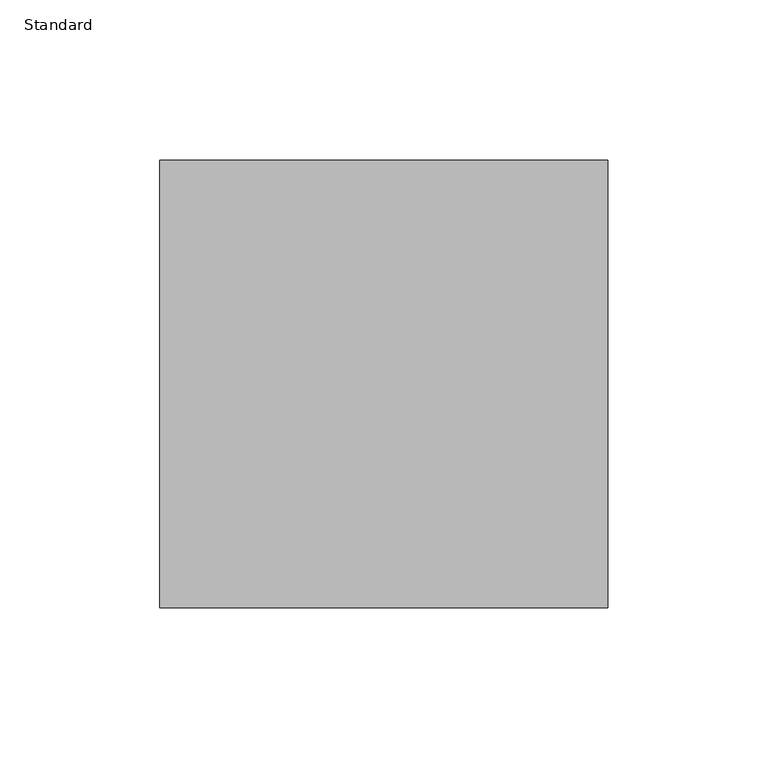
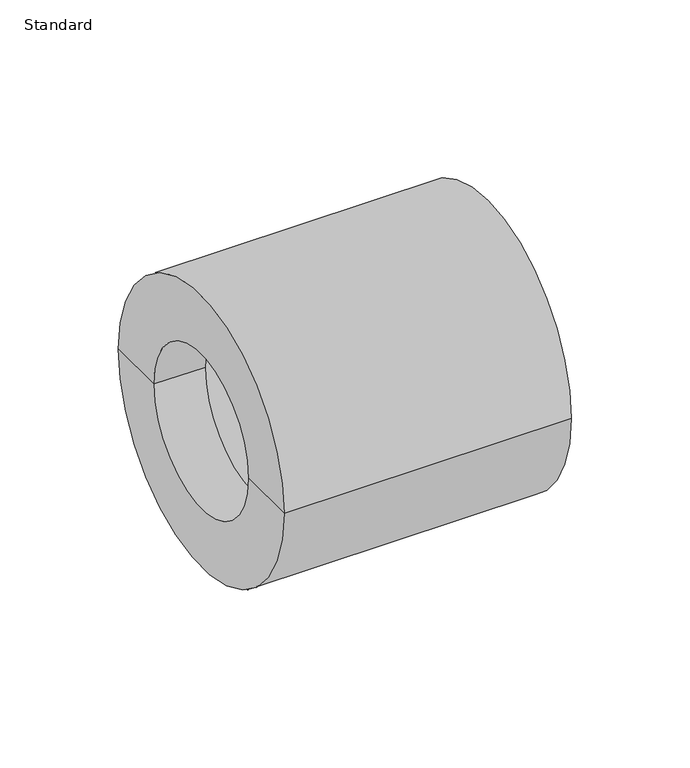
"""IFC4 building model written with IfcOpenShell, lengths in millimetres: pipe fitting geometry, Durapipe_PipeFitting_PVC_ReducingBush : Standard."""

from ifc_helpers import new_model, si_unit, frame, origin, place, context, project, spatial, polyline, circle_curve, source, transform, mapped, element, save
from ifc_brep_helpers import plane_surface, cylinder_surface, revolved_surface, advanced_brep


def standard_b5006dd4(model_context):
    return source(origin(), model_context, "Body", "AdvancedBrep", [
        advanced_brep(
        [(-25.0, -40.0, 0.0), (-25.0, 40.0, 0.0), (-25.0, 70.0, 0.0), (-25.0, -70.0, 0.0), (0.0, -40.0, 0.0), (0.0, 40.0, 0.0), (0.0, -45.0, 0.0), (0.0, 45.0, 0.0), (115.0, -45.0, 0.0), (115.0, 45.0, 0.0), (115.0, -70.0, 0.0), (115.0, 70.0, 0.0)],
        [
            (0, 1, circle_curve(frame((-25.0, 0.0, 0.0), z_axis=(1.0, 0.0, 0.0), x_axis=(0.0, 1.0, 0.0)), 40.0)),
            (1, 2),
            (2, 3, circle_curve(frame((-25.0, 0.0, 0.0), z_axis=(-1.0, 0.0, 0.0), x_axis=(0.0, 1.0, 0.0)), 70.0)),
            (3, 0),
            (1, 0, circle_curve(frame((-25.0, 0.0, 0.0), z_axis=(1.0, 0.0, 0.0), x_axis=(0.0, 1.0, 0.0)), 40.0)),
            (3, 2, circle_curve(frame((-25.0, 0.0, 0.0), z_axis=(-1.0, 0.0, 0.0), x_axis=(0.0, 1.0, 0.0)), 70.0)),
            (4, 5, circle_curve(frame((0.0, 0.0, 0.0), z_axis=(1.0, 0.0, 0.0), x_axis=(0.0, 1.0, 0.0)), 40.0)),
            (5, 1),
            (0, 4),
            (5, 4, circle_curve(frame((0.0, 0.0, 0.0), z_axis=(1.0, 0.0, 0.0), x_axis=(0.0, 1.0, 0.0)), 40.0)),
            (6, 7, circle_curve(frame((0.0, 0.0, 0.0), z_axis=(1.0, 0.0, 0.0), x_axis=(0.0, 1.0, 0.0)), 45.0)),
            (7, 5),
            (4, 6),
            (7, 6, circle_curve(frame((0.0, 0.0, 0.0), z_axis=(1.0, 0.0, 0.0), x_axis=(0.0, 1.0, 0.0)), 45.0)),
            (8, 9, circle_curve(frame((115.0, 0.0, 0.0), z_axis=(1.0, 0.0, 0.0), x_axis=(0.0, 1.0, 0.0)), 45.0)),
            (9, 7),
            (6, 8),
            (9, 8, circle_curve(frame((115.0, 0.0, 0.0), z_axis=(1.0, 0.0, 0.0), x_axis=(0.0, 1.0, 0.0)), 45.0)),
            (10, 11, circle_curve(frame((115.0, 0.0, 0.0), z_axis=(1.0, 0.0, 0.0), x_axis=(0.0, 1.0, 0.0)), 70.0)),
            (11, 9),
            (8, 10),
            (11, 10, circle_curve(frame((115.0, 0.0, 0.0), z_axis=(1.0, 0.0, 0.0), x_axis=(0.0, 1.0, 0.0)), 70.0)),
            (2, 11),
            (10, 3),
        ],
        [
            plane_surface(frame((-25.0, 0.0, 0.0), z_axis=(-1.0, 0.0, 0.0), x_axis=(0.0, 1.0, 0.0))),
            revolved_surface(polyline([(-25.0, 40.0, 0.0), (0.0, 40.0, 0.0)]), (2101.0, 0.0, 0.0), (-1.0, 0.0, 0.0)),
            plane_surface(frame((0.0, 0.0, 0.0), z_axis=(1.0, 0.0, 0.0), x_axis=(0.0, 1.0, 0.0))),
            revolved_surface(polyline([(0.0, 45.0, 0.0), (115.0, 45.0, 0.0)]), (2101.0, 0.0, 0.0), (-1.0, 0.0, 0.0)),
            plane_surface(frame((115.0, 0.0, 0.0), z_axis=(1.0, 0.0, 0.0), x_axis=(0.0, 1.0, 0.0))),
            cylinder_surface(frame((2101.0, 0.0, 0.0), z_axis=(-1.0, 0.0, 0.0), x_axis=(0.0, 1.0, 0.0)), 70.0),
        ],
        [
            (0, [[1, 2, 3, 4]]),
            (0, [[5, -4, 6, -2]]),
            (1, [[7, 8, -1, 9]]),
            (1, [[10, -9, -5, -8]]),
            (2, [[11, 12, -7, 13]]),
            (2, [[14, -13, -10, -12]]),
            (3, [[15, 16, -11, 17]]),
            (3, [[18, -17, -14, -16]]),
            (4, [[19, 20, -15, 21]]),
            (4, [[22, -21, -18, -20]]),
            (5, [[-3, 23, -19, 24]]),
            (5, [[-6, -24, -22, -23]]),
        ],
    ),
    ])


if __name__ == "__main__":
    model = new_model("IFC4")
    model_context = context("Model", 3, world=origin())
    ifc_project = project(units=[si_unit("LENGTHUNIT", "METRE", prefix="MILLI")], contexts=[model_context])
    site = spatial("IfcSite", under=ifc_project)
    building = spatial("IfcBuilding", under=site)
    placement = place(None, origin())
    standard_shape = standard_b5006dd4(model_context)
    element("IfcPipeFitting", 1, ObjectType="Durapipe_PipeFitting_PVC_ReducingBush : Standard", at=placement, inside=building, context=model_context, shape_type="MappedRepresentation", body=[
        mapped(standard_shape, transform((0.0, 0.0, 0.0), x_axis=(1.0, 0.0, 0.0), y_axis=(0.0, 1.0, 0.0), z_axis=(0.0, 0.0, 1.0))),
    ])
    save(model, "model.ifc")
